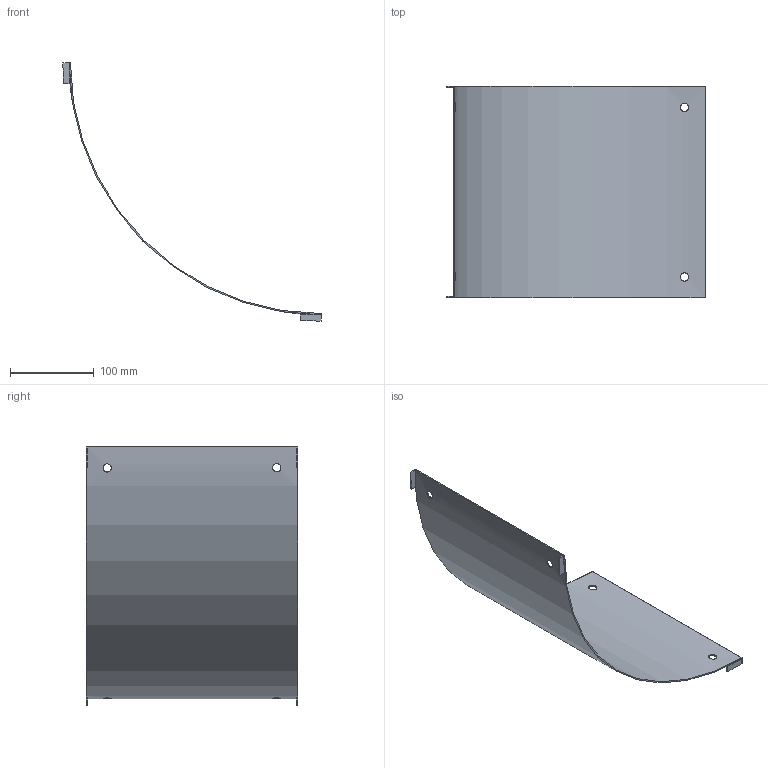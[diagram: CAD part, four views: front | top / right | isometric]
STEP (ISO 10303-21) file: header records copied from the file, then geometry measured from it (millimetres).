
FILE_DESCRIPTION(/* description */ ('','CAx-IF Rec.Pracs.---Representation and Presentation of Product Manufacturing Information (PMI)---4.0---2014-10-13'),/* implementation_level */ '2;1');
FILE_NAME(/* name */ 'Eurostrut_EIRC200-90-300_Cover Inside Riser 90 for Cable Ladder ECL.step',/* time_stamp */ '2026-09-10T11:54:42+02:00',/* author */ (''),/* organization */ (''),/* preprocessor_version */ 'ST-DEVELOPER v20.1',/* originating_system */ 'Autodesk Revit 2027 27.2.0.39',/* authorisation */ '');
FILE_SCHEMA (('AP242_MANAGED_MODEL_BASED_3D_ENGINEERING_MIM_LF { 1 0 10303 442 2 1 4 }'));
Length unit declared in the file: millimetre
Products named in the file (3): TopLevelAssembly; Sweep; Joined Solid Geometry
Assembly tree (2 placements, depth 2):
  TopLevelAssembly
    Sweep
    Joined Solid Geometry
Bounding box: 309 x 253 x 309 mm (x, y, z)
Volume: 179937.3 mm3; surface area: 242671.8 mm2
Topology: 5 solids, 5 shells, 38 faces, 84 edges, 56 vertices
Faces by surface type: plane 20, cylinder 18
Entity records: 1358 total; most frequent: CARTESIAN_POINT 461, DIRECTION 174, ORIENTED_EDGE 168, EDGE_CURVE 84, AXIS2_PLACEMENT_3D 63, VERTEX_POINT 56, LINE 48, VECTOR 48
